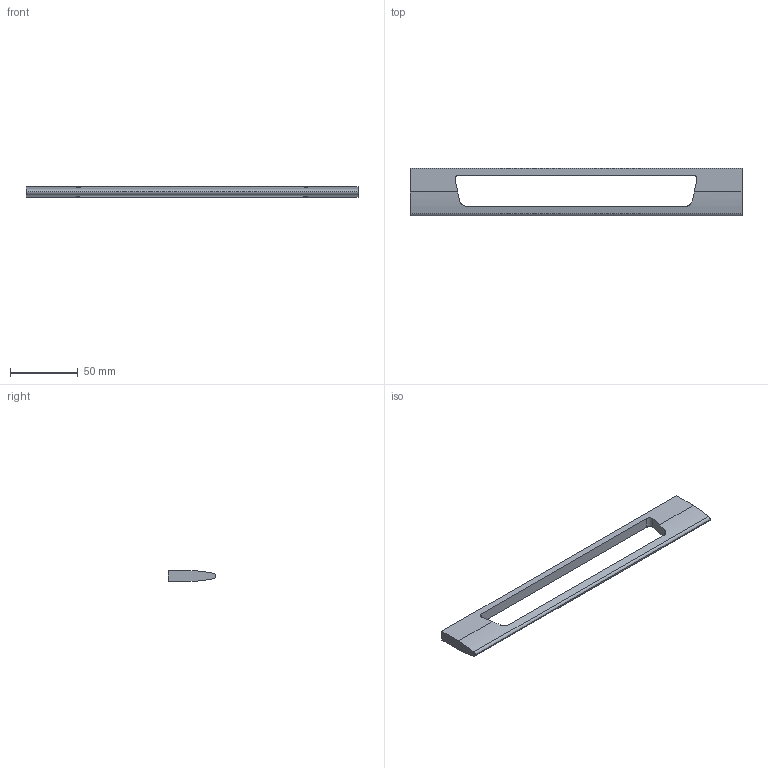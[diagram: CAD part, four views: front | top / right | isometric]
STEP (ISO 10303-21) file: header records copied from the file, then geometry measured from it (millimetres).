
FILE_DESCRIPTION( ( '' ), '1' );
FILE_NAME( 'D:/1.AUTOCAD EXPORT/Group 10/sheet_10_1/9105837.stp', '2013-10-18T05:19:31', ( '' ), ( '' ), ' ', ' ', ' ' );
FILE_SCHEMA( ( 'automotive_design' ) );
Length unit declared in the file: millimetre
Products named in the file (1): 1
Bounding box: 245 x 35 x 8 mm (x, y, z)
Volume: 29563.2 mm3; surface area: 15134.8 mm2
Topology: 1 solids, 1 shells, 23 faces, 63 edges, 42 vertices
Faces by surface type: cylinder 12, plane 11
Entity records: 1530 total; most frequent: CARTESIAN_POINT 189, DIRECTION 131, STYLED_ITEM 129, PRESENTATION_STYLE_ASSIGNMENT 129, COLOUR_RGB 129, ORIENTED_EDGE 126, EDGE_CURVE 63, CURVE_STYLE 63
